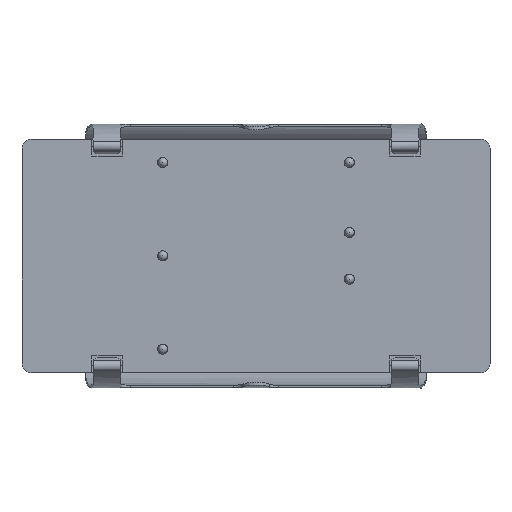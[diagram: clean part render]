
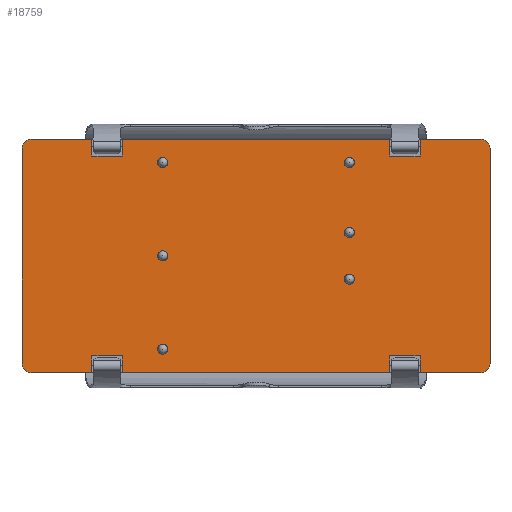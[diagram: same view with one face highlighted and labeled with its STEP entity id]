
A CAD part, top view. The second image highlights one B-rep face of the part: STEP entity #18759.
In plain terms, the highlighted planar face has unit normal (0, 0, 1).
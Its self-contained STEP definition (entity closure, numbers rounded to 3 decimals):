
#81=FACE_BOUND('',#2487,.T.);
#82=FACE_BOUND('',#2488,.T.);
#83=FACE_BOUND('',#2489,.T.);
#84=FACE_BOUND('',#2490,.T.);
#85=FACE_BOUND('',#2491,.T.);
#86=FACE_BOUND('',#2492,.T.);
#1471=FACE_OUTER_BOUND('',#2486,.T.);
#2486=EDGE_LOOP('',(#17169,#17170,#17171,#17172,#17173,#17174,#17175,#17176,
#17177,#17178,#17179,#17180,#17181,#17182,#17183,#17184,#17185,#17186,#17187,
#17188,#17189,#17190,#17191,#17192));
#2487=EDGE_LOOP('',(#17193));
#2488=EDGE_LOOP('',(#17194));
#2489=EDGE_LOOP('',(#17195));
#2490=EDGE_LOOP('',(#17196));
#2491=EDGE_LOOP('',(#17197));
#2492=EDGE_LOOP('',(#17198));
#3374=CIRCLE('',#20570,0.55);
#3376=CIRCLE('',#20573,0.55);
#3378=CIRCLE('',#20576,0.55);
#3380=CIRCLE('',#20579,0.55);
#3382=CIRCLE('',#20582,0.55);
#3384=CIRCLE('',#20585,0.55);
#3397=CIRCLE('',#20618,1.025);
#3398=CIRCLE('',#20620,1.025);
#3399=CIRCLE('',#20623,1.025);
#3400=CIRCLE('',#20625,1.025);
#5170=LINE('',#31776,#7010);
#5173=LINE('',#31781,#7013);
#5176=LINE('',#31786,#7016);
#5182=LINE('',#31798,#7022);
#5185=LINE('',#31803,#7025);
#5188=LINE('',#31808,#7028);
#5194=LINE('',#31820,#7034);
#5198=LINE('',#31828,#7038);
#5201=LINE('',#31833,#7041);
#5208=LINE('',#31847,#7048);
#5211=LINE('',#31853,#7051);
#5215=LINE('',#31859,#7055);
#5217=LINE('',#31863,#7057);
#5218=LINE('',#31866,#7058);
#5220=LINE('',#31869,#7060);
#5222=LINE('',#31873,#7062);
#5223=LINE('',#31876,#7063);
#5225=LINE('',#31879,#7065);
#5240=LINE('',#31965,#7080);
#5244=LINE('',#31976,#7084);
#7010=VECTOR('',#25953,3.3);
#7013=VECTOR('',#25958,1.85);
#7016=VECTOR('',#25963,1.85);
#7022=VECTOR('',#25973,3.3);
#7025=VECTOR('',#25978,1.85);
#7028=VECTOR('',#25983,1.85);
#7034=VECTOR('',#25993,1.85);
#7038=VECTOR('',#25999,3.3);
#7041=VECTOR('',#26004,1.85);
#7048=VECTOR('',#26015,1.85);
#7051=VECTOR('',#26020,1.85);
#7055=VECTOR('',#26026,3.3);
#7057=VECTOR('',#26030,6.59);
#7058=VECTOR('',#26033,6.59);
#7060=VECTOR('',#26037,29.12);
#7062=VECTOR('',#26041,6.59);
#7063=VECTOR('',#26044,6.59);
#7065=VECTOR('',#26048,29.12);
#7080=VECTOR('',#26161,23.4);
#7084=VECTOR('',#26175,23.4);
#8834=VERTEX_POINT('',#31773);
#8835=VERTEX_POINT('',#31775);
#8836=VERTEX_POINT('',#31780);
#8837=VERTEX_POINT('',#31784);
#8840=VERTEX_POINT('',#31795);
#8841=VERTEX_POINT('',#31797);
#8842=VERTEX_POINT('',#31802);
#8843=VERTEX_POINT('',#31806);
#8846=VERTEX_POINT('',#31817);
#8847=VERTEX_POINT('',#31819);
#8850=VERTEX_POINT('',#31827);
#8851=VERTEX_POINT('',#31832);
#8855=VERTEX_POINT('',#31844);
#8856=VERTEX_POINT('',#31846);
#8857=VERTEX_POINT('',#31850);
#8858=VERTEX_POINT('',#31852);
#8860=VERTEX_POINT('',#31861);
#8861=VERTEX_POINT('',#31865);
#8862=VERTEX_POINT('',#31871);
#8863=VERTEX_POINT('',#31875);
#8865=VERTEX_POINT('',#31883);
#8867=VERTEX_POINT('',#31888);
#8869=VERTEX_POINT('',#31893);
#8871=VERTEX_POINT('',#31898);
#8873=VERTEX_POINT('',#31903);
#8875=VERTEX_POINT('',#31908);
#8884=VERTEX_POINT('',#31963);
#8885=VERTEX_POINT('',#31964);
#8886=VERTEX_POINT('',#31971);
#8887=VERTEX_POINT('',#31975);
#11556=EDGE_CURVE('',#8835,#8834,#5170,.T.);
#11559=EDGE_CURVE('',#8836,#8835,#5173,.T.);
#11562=EDGE_CURVE('',#8834,#8837,#5176,.T.);
#11568=EDGE_CURVE('',#8841,#8840,#5182,.T.);
#11571=EDGE_CURVE('',#8842,#8841,#5185,.T.);
#11574=EDGE_CURVE('',#8840,#8843,#5188,.T.);
#11580=EDGE_CURVE('',#8847,#8846,#5194,.T.);
#11584=EDGE_CURVE('',#8850,#8847,#5198,.T.);
#11587=EDGE_CURVE('',#8851,#8850,#5201,.T.);
#11594=EDGE_CURVE('',#8856,#8855,#5208,.T.);
#11597=EDGE_CURVE('',#8858,#8857,#5211,.T.);
#11601=EDGE_CURVE('',#8855,#8858,#5215,.T.);
#11603=EDGE_CURVE('',#8860,#8843,#5217,.T.);
#11604=EDGE_CURVE('',#8836,#8861,#5218,.T.);
#11606=EDGE_CURVE('',#8842,#8837,#5220,.T.);
#11608=EDGE_CURVE('',#8862,#8857,#5222,.T.);
#11609=EDGE_CURVE('',#8851,#8863,#5223,.T.);
#11611=EDGE_CURVE('',#8856,#8846,#5225,.T.);
#11613=EDGE_CURVE('',#8865,#8865,#3374,.T.);
#11615=EDGE_CURVE('',#8867,#8867,#3376,.T.);
#11617=EDGE_CURVE('',#8869,#8869,#3378,.T.);
#11619=EDGE_CURVE('',#8871,#8871,#3380,.T.);
#11621=EDGE_CURVE('',#8873,#8873,#3382,.T.);
#11623=EDGE_CURVE('',#8875,#8875,#3384,.T.);
#11650=EDGE_CURVE('',#8884,#8885,#5240,.T.);
#11653=EDGE_CURVE('',#8885,#8860,#3397,.T.);
#11654=EDGE_CURVE('',#8861,#8886,#3398,.T.);
#11656=EDGE_CURVE('',#8886,#8887,#5244,.T.);
#11658=EDGE_CURVE('',#8887,#8862,#3399,.T.);
#11659=EDGE_CURVE('',#8863,#8884,#3400,.T.);
#17169=ORIENTED_EDGE('',*,*,#11562,.T.);
#17170=ORIENTED_EDGE('',*,*,#11606,.F.);
#17171=ORIENTED_EDGE('',*,*,#11571,.T.);
#17172=ORIENTED_EDGE('',*,*,#11568,.T.);
#17173=ORIENTED_EDGE('',*,*,#11574,.T.);
#17174=ORIENTED_EDGE('',*,*,#11603,.F.);
#17175=ORIENTED_EDGE('',*,*,#11653,.F.);
#17176=ORIENTED_EDGE('',*,*,#11650,.F.);
#17177=ORIENTED_EDGE('',*,*,#11659,.F.);
#17178=ORIENTED_EDGE('',*,*,#11609,.F.);
#17179=ORIENTED_EDGE('',*,*,#11587,.T.);
#17180=ORIENTED_EDGE('',*,*,#11584,.T.);
#17181=ORIENTED_EDGE('',*,*,#11580,.T.);
#17182=ORIENTED_EDGE('',*,*,#11611,.F.);
#17183=ORIENTED_EDGE('',*,*,#11594,.T.);
#17184=ORIENTED_EDGE('',*,*,#11601,.T.);
#17185=ORIENTED_EDGE('',*,*,#11597,.T.);
#17186=ORIENTED_EDGE('',*,*,#11608,.F.);
#17187=ORIENTED_EDGE('',*,*,#11658,.F.);
#17188=ORIENTED_EDGE('',*,*,#11656,.F.);
#17189=ORIENTED_EDGE('',*,*,#11654,.F.);
#17190=ORIENTED_EDGE('',*,*,#11604,.F.);
#17191=ORIENTED_EDGE('',*,*,#11559,.T.);
#17192=ORIENTED_EDGE('',*,*,#11556,.T.);
#17193=ORIENTED_EDGE('',*,*,#11613,.T.);
#17194=ORIENTED_EDGE('',*,*,#11615,.T.);
#17195=ORIENTED_EDGE('',*,*,#11617,.T.);
#17196=ORIENTED_EDGE('',*,*,#11619,.T.);
#17197=ORIENTED_EDGE('',*,*,#11621,.T.);
#17198=ORIENTED_EDGE('',*,*,#11623,.T.);
#17806=PLANE('',#20626);
#18759=ADVANCED_FACE('',(#1471,#81,#82,#83,#84,#85,#86),#17806,.T.);
#20570=AXIS2_PLACEMENT_3D('',#31884,#26053,#26054);
#20573=AXIS2_PLACEMENT_3D('',#31889,#26059,#26060);
#20576=AXIS2_PLACEMENT_3D('',#31894,#26065,#26066);
#20579=AXIS2_PLACEMENT_3D('',#31899,#26071,#26072);
#20582=AXIS2_PLACEMENT_3D('',#31904,#26077,#26078);
#20585=AXIS2_PLACEMENT_3D('',#31909,#26083,#26084);
#20618=AXIS2_PLACEMENT_3D('',#31969,#26166,#26167);
#20620=AXIS2_PLACEMENT_3D('',#31972,#26170,#26171);
#20623=AXIS2_PLACEMENT_3D('',#31979,#26179,#26180);
#20625=AXIS2_PLACEMENT_3D('',#31981,#26183,#26184);
#20626=AXIS2_PLACEMENT_3D('',#31982,#26185,#26186);
#25953=DIRECTION('',(1.,0.,0.));
#25958=DIRECTION('',(0.,1.,0.));
#25963=DIRECTION('',(0.,-1.,0.));
#25973=DIRECTION('',(1.,0.,0.));
#25978=DIRECTION('',(0.,1.,0.));
#25983=DIRECTION('',(0.,-1.,0.));
#25993=DIRECTION('',(0.,1.,0.));
#25999=DIRECTION('',(-1.,0.,0.));
#26004=DIRECTION('',(0.,-1.,0.));
#26015=DIRECTION('',(0.,-1.,0.));
#26020=DIRECTION('',(0.,1.,0.));
#26026=DIRECTION('',(-1.,0.,0.));
#26030=DIRECTION('',(-1.,0.,0.));
#26033=DIRECTION('',(-1.,0.,0.));
#26037=DIRECTION('',(-1.,0.,0.));
#26041=DIRECTION('',(1.,0.,0.));
#26044=DIRECTION('',(1.,0.,0.));
#26048=DIRECTION('',(1.,0.,0.));
#26053=DIRECTION('center_axis',(0.,0.,
-1.));
#26054=DIRECTION('ref_axis',(-1.,0.,0.));
#26059=DIRECTION('center_axis',(0.,0.,
-1.));
#26060=DIRECTION('ref_axis',(-1.,0.,0.));
#26065=DIRECTION('center_axis',(0.,0.,
-1.));
#26066=DIRECTION('ref_axis',(-1.,0.,0.));
#26071=DIRECTION('center_axis',(0.,0.,
-1.));
#26072=DIRECTION('ref_axis',(-1.,0.,0.));
#26077=DIRECTION('center_axis',(0.,0.,
-1.));
#26078=DIRECTION('ref_axis',(-1.,0.,0.));
#26083=DIRECTION('center_axis',(0.,0.,
-1.));
#26084=DIRECTION('ref_axis',(-1.,0.,0.));
#26161=DIRECTION('',(0.,-1.,0.));
#26166=DIRECTION('center_axis',(0.,0.,-1.));
#26167=DIRECTION('ref_axis',(0.,1.,0.));
#26170=DIRECTION('center_axis',(0.,0.,-1.));
#26171=DIRECTION('ref_axis',(1.,0.,0.));
#26175=DIRECTION('',(0.,1.,0.));
#26179=DIRECTION('center_axis',(0.,0.,-1.));
#26180=DIRECTION('ref_axis',(0.,-1.,0.));
#26183=DIRECTION('center_axis',(0.,0.,-1.));
#26184=DIRECTION('ref_axis',(-1.,0.,0.));
#26185=DIRECTION('center_axis',(0.,0.,
1.));
#26186=DIRECTION('ref_axis',(1.,0.,0.));
#31773=CARTESIAN_POINT('',(-14.56,-10.875,11.));
#31775=CARTESIAN_POINT('',(-17.86,-10.875,11.));
#31776=CARTESIAN_POINT('',(-7.28,-10.875,11.));
#31780=CARTESIAN_POINT('',(-17.86,-12.725,11.));
#31781=CARTESIAN_POINT('',(-17.86,-5.438,11.));
#31784=CARTESIAN_POINT('',(-14.56,-12.725,11.));
#31786=CARTESIAN_POINT('',(-14.56,-6.362,11.));
#31795=CARTESIAN_POINT('',(17.86,-10.875,11.));
#31797=CARTESIAN_POINT('',(14.56,-10.875,11.));
#31798=CARTESIAN_POINT('',(8.93,-10.875,11.));
#31802=CARTESIAN_POINT('',(14.56,-12.725,11.));
#31803=CARTESIAN_POINT('',(14.56,-5.437,11.));
#31806=CARTESIAN_POINT('',(17.86,-12.725,11.));
#31808=CARTESIAN_POINT('',(17.86,-6.363,11.));
#31817=CARTESIAN_POINT('',(14.56,12.725,11.));
#31819=CARTESIAN_POINT('',(14.56,10.875,11.));
#31820=CARTESIAN_POINT('',(14.56,6.362,11.));
#31827=CARTESIAN_POINT('',(17.86,10.875,11.));
#31828=CARTESIAN_POINT('',(7.28,10.875,11.));
#31832=CARTESIAN_POINT('',(17.86,12.725,11.));
#31833=CARTESIAN_POINT('',(17.86,5.438,11.));
#31844=CARTESIAN_POINT('',(-14.56,10.875,11.));
#31846=CARTESIAN_POINT('',(-14.56,12.725,11.));
#31847=CARTESIAN_POINT('',(-14.56,5.437,11.));
#31850=CARTESIAN_POINT('',(-17.86,12.725,11.));
#31852=CARTESIAN_POINT('',(-17.86,10.875,11.));
#31853=CARTESIAN_POINT('',(-17.86,6.363,11.));
#31859=CARTESIAN_POINT('',(-8.93,10.875,11.));
#31861=CARTESIAN_POINT('',(24.45,-12.725,11.));
#31863=CARTESIAN_POINT('',(24.45,-12.725,11.));
#31865=CARTESIAN_POINT('',(-24.45,-12.725,11.));
#31866=CARTESIAN_POINT('',(24.45,-12.725,11.));
#31869=CARTESIAN_POINT('',(24.45,-12.725,11.));
#31871=CARTESIAN_POINT('',(-24.45,12.725,11.));
#31873=CARTESIAN_POINT('',(-24.45,12.725,11.));
#31875=CARTESIAN_POINT('',(24.45,12.725,11.));
#31876=CARTESIAN_POINT('',(-24.45,12.725,11.));
#31879=CARTESIAN_POINT('',(-24.45,12.725,11.));
#31883=CARTESIAN_POINT('',(-9.61,0.,11.));
#31884=CARTESIAN_POINT('Origin',(-10.16,0.,11.));
#31888=CARTESIAN_POINT('',(10.71,-2.54,11.));
#31889=CARTESIAN_POINT('Origin',(10.16,-2.54,11.));
#31893=CARTESIAN_POINT('',(10.71,10.16,11.));
#31894=CARTESIAN_POINT('Origin',(10.16,10.16,11.));
#31898=CARTESIAN_POINT('',(10.71,2.54,11.));
#31899=CARTESIAN_POINT('Origin',(10.16,2.54,11.));
#31903=CARTESIAN_POINT('',(-9.61,10.16,11.));
#31904=CARTESIAN_POINT('Origin',(-10.16,10.16,11.));
#31908=CARTESIAN_POINT('',(-9.61,-10.16,11.));
#31909=CARTESIAN_POINT('Origin',(-10.16,-10.16,11.));
#31963=CARTESIAN_POINT('',(25.475,11.7,11.));
#31964=CARTESIAN_POINT('',(25.475,-11.7,11.));
#31965=CARTESIAN_POINT('',(25.475,11.7,11.));
#31969=CARTESIAN_POINT('Origin',(24.45,-11.7,11.));
#31971=CARTESIAN_POINT('',(-25.475,-11.7,11.));
#31972=CARTESIAN_POINT('Origin',(-24.45,-11.7,11.));
#31975=CARTESIAN_POINT('',(-25.475,11.7,11.));
#31976=CARTESIAN_POINT('',(-25.475,-11.7,11.));
#31979=CARTESIAN_POINT('Origin',(-24.45,11.7,11.));
#31981=CARTESIAN_POINT('Origin',(24.45,11.7,11.));
#31982=CARTESIAN_POINT('Origin',(0.,0.,11.));
